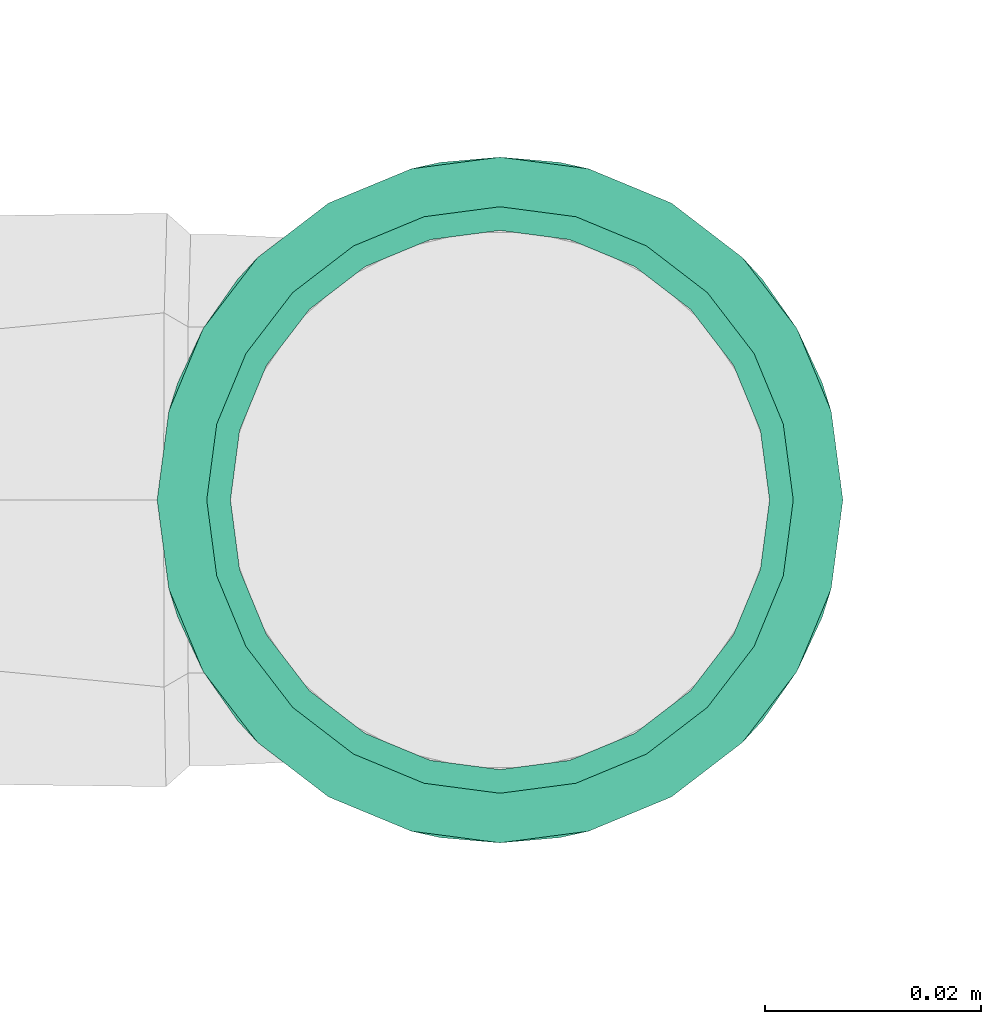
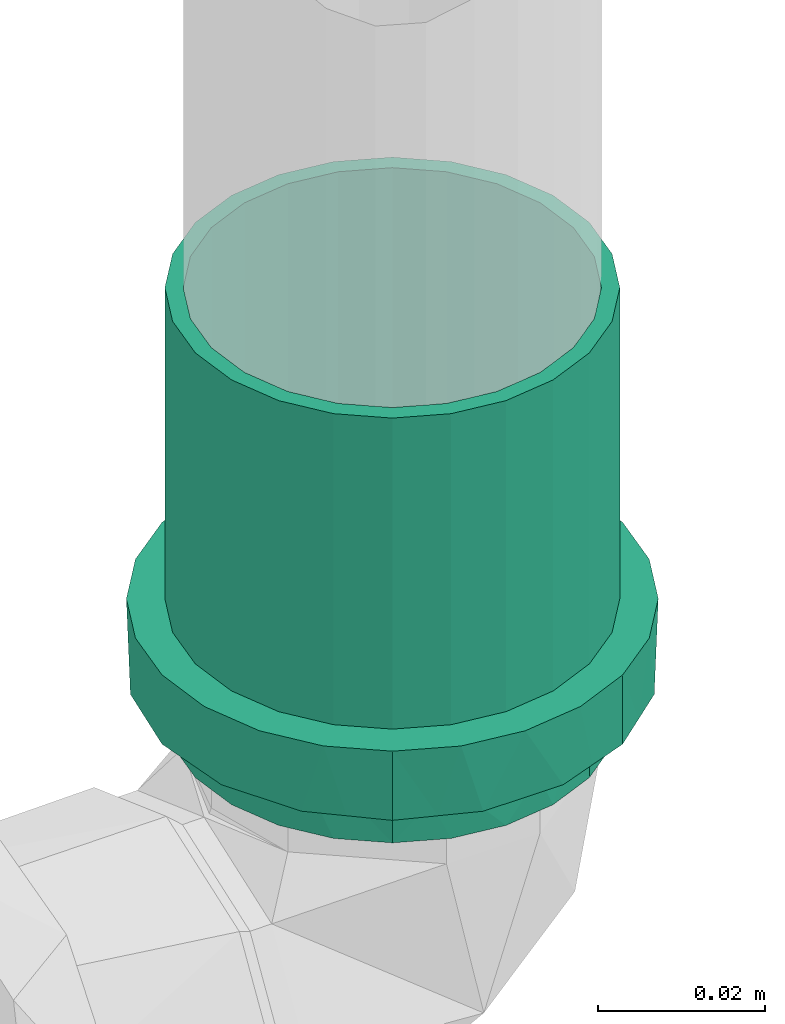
# One storey, part 172 of 589: 1 flow fitting.
"""IFC2X3 building model written with IfcOpenShell, lengths in millimetres."""

import ifcopenshell
import ifcopenshell.guid

model = None  # the IFC model being written
_history = None  # IfcOwnerHistory: only IFC2X3 demands one
_inside = {}  # id of a spatial element -> (the spatial element, [elements in it])
_under = {}  # id of a project, library or spatial element -> (it, [spatial elements below it])
_declared = {}  # id of a project -> (the project, [libraries it declares])
_typed = {}  # id of a type object -> (the type object, [elements of that type])
_made_of = {}  # id of a material, layer set ... -> (it, [elements and type objects made of it])


def new_model(schema):
    """Start an empty IFC model of exactly this schema.

    Asked for "IFC4X3", IfcOpenShell would pick the latest addendum, in which some entities
    have other attributes; the version numbers below select the first issue.
    IFC2X3 requires an IfcOwnerHistory on every rooted entity: one is made here for all.
    """
    global model, _history
    if schema == "IFC4X3":
        model = ifcopenshell.file(schema_version=(4, 3, 0, 0))
    else:
        model = ifcopenshell.file(schema=schema)
    _inside.clear()
    _under.clear()
    _declared.clear()
    _typed.clear()
    _made_of.clear()
    _history = None
    if model.schema == "IFC2X3":
        org = make("IfcOrganization", Name="unknown")
        user = make(
            "IfcPersonAndOrganization",
            ThePerson=make("IfcPerson", FamilyName="unknown"),
            TheOrganization=org,
        )
        app = make(
            "IfcApplication",
            ApplicationDeveloper=org,
            Version="unknown",
            ApplicationFullName="unknown",
            ApplicationIdentifier="unknown",
        )
        _history = make(
            "IfcOwnerHistory",
            OwningUser=user,
            OwningApplication=app,
            ChangeAction="ADDED",
            CreationDate=0,
        )
    return model


def make(cls, **values):
    """One entity of the class cls with the attributes given. An attribute that is None is left unset."""
    return model.create_entity(
        cls, **{name: value for name, value in values.items() if value is not None}
    )


def entity(cls, *values):
    """Any entity or typed value of the class cls, its attributes in the order of the schema. None: left unset."""
    e = model.create_entity(cls)
    for i, value in enumerate(values):
        if value is not None:
            e[i] = value
    return e


def rooted(cls, **values):
    """An entity with a GlobalId (a new one), such as an element, a storey or a relation."""
    return make(cls, GlobalId=ifcopenshell.guid.new(), OwnerHistory=_history, **values)


def si_unit(unit_type, name, prefix=None):
    """IfcSIUnit, for example si_unit("LENGTHUNIT", "METRE", prefix="MILLI")."""
    return make("IfcSIUnit", UnitType=unit_type, Prefix=prefix, Name=name)


def converted_unit(unit_type, name, factor, base, dimensions=None, offset=None):
    """IfcConversionBasedUnit, such as the inch: factor (a typed value) times the base unit."""
    return make(
        "IfcConversionBasedUnit"
        if offset is None
        else "IfcConversionBasedUnitWithOffset",
        ConversionOffset=offset,
        Dimensions=None
        if dimensions is None
        else entity("IfcDimensionalExponents", *dimensions),
        UnitType=unit_type,
        Name=name,
        ConversionFactor=make(
            "IfcMeasureWithUnit", ValueComponent=factor, UnitComponent=base
        ),
    )


def derived_unit(unit_type, elements):
    """IfcDerivedUnit: a product of units, each with its exponent."""
    return make(
        "IfcDerivedUnit",
        Elements=[
            make("IfcDerivedUnitElement", Unit=unit, Exponent=power)
            for unit, power in elements
        ],
        UnitType=unit_type,
    )


def assignment(units):
    """IfcUnitAssignment: the units of a project."""
    return None if units is None else make("IfcUnitAssignment", Units=units)


def point(xyz):
    """IfcCartesianPoint."""
    return None if xyz is None else make("IfcCartesianPoint", Coordinates=xyz)


def direction(xyz):
    """IfcDirection."""
    return None if xyz is None else make("IfcDirection", DirectionRatios=xyz)


def frame(location, z_axis=None, x_axis=None):
    """IfcAxis2Placement3D, a coordinate frame: its origin and axes. An axis left out is left unset."""
    return make(
        "IfcAxis2Placement3D",
        Location=point(location),
        Axis=direction(z_axis),
        RefDirection=direction(x_axis),
    )


def origin():
    """The frame at (0, 0, 0) with its axes left unset."""
    return frame((0.0, 0.0, 0.0))


def place(relative_to, where):
    """IfcLocalPlacement: puts the frame where relative to a parent placement (None: the world)."""
    return make(
        "IfcLocalPlacement", PlacementRelTo=relative_to, RelativePlacement=where
    )


def context(
    kind, dimensions, precision=None, world=None, true_north=None, identifier=None
):
    """IfcGeometricRepresentationContext, for example the 3D "Model" context."""
    return make(
        "IfcGeometricRepresentationContext",
        ContextIdentifier=identifier,
        ContextType=kind,
        CoordinateSpaceDimension=dimensions,
        Precision=precision,
        WorldCoordinateSystem=world,
        TrueNorth=true_north,
    )


def subcontext(parent, identifier, kind, view, scale=None):
    """IfcGeometricRepresentationSubContext, for example "Body" below "Model"."""
    return make(
        "IfcGeometricRepresentationSubContext",
        ContextIdentifier=identifier,
        ContextType=kind,
        ParentContext=parent,
        TargetScale=scale,
        TargetView=view,
    )


def project(units=None, contexts=None):
    """IfcProject with its units and contexts."""
    return rooted(
        "IfcProject",
        Name="project",
        RepresentationContexts=contexts,
        UnitsInContext=assignment(units),
    )


def spatial(cls, under=None, at=None, **own):
    """A site, building, storey or space (cls), placed at a placement, below another one or the project."""
    s = rooted(cls, ObjectPlacement=at, **own)
    if under is not None:
        _under.setdefault(under.id(), (under, []))[1].append(s)
    return s


def faces_of(points, faces, orient=None, outer=None):
    """IfcFace entities. A face is a list of loops; a loop is a list of indices into points, from 0.

    orient and outer hold one flag for each loop. By default every Orientation is true, the
    first loop of a face is its IfcFaceOuterBound and the others are IfcFaceBound.
    """
    made = []
    for i, loops in enumerate(faces):
        bounds = []
        for j, loop in enumerate(loops):
            is_outer = j == 0 if outer is None else outer[i][j]
            bounds.append(
                make(
                    "IfcFaceOuterBound" if is_outer else "IfcFaceBound",
                    Bound=make("IfcPolyLoop", Polygon=[points[k] for k in loop]),
                    Orientation=True if orient is None else orient[i][j],
                )
            )
        made.append(make("IfcFace", Bounds=bounds))
    return made


def faceted_brep(points, faces, orient=None, outer=None, voids=None):
    """IfcFacetedBrep: a solid bounded by flat faces; with voids (closed shells), ...WithVoids."""
    shared = [point(p) for p in points]
    hull = make("IfcClosedShell", CfsFaces=faces_of(shared, faces, orient, outer))
    if voids is None:
        return make("IfcFacetedBrep", Outer=hull)
    return make(
        "IfcFacetedBrepWithVoids",
        Outer=hull,
        Voids=[
            make(cls, CfsFaces=faces_of(shared, fs, o, b)) for cls, fs, o, b in voids
        ],
    )


def shape(context_of_items, identifier, shape_type, items):
    """IfcShapeRepresentation: the items that make up one representation, for example the "Body"."""
    return make(
        "IfcShapeRepresentation",
        ContextOfItems=context_of_items,
        RepresentationIdentifier=identifier,
        RepresentationType=shape_type,
        Items=items,
    )


def source(mapping_origin, context_of_items, identifier, shape_type, items):
    """IfcRepresentationMap: a shape defined once, which mapped items show again and again."""
    return make(
        "IfcRepresentationMap",
        MappingOrigin=mapping_origin,
        MappedRepresentation=shape(context_of_items, identifier, shape_type, items),
    )


def transform(
    local_origin,
    x_axis=None,
    y_axis=None,
    z_axis=None,
    scale=None,
    scale2=None,
    scale3=None,
    uniform=True,
):
    """IfcCartesianTransformationOperator3D, or its non-uniform kind. x_axis, y_axis, z_axis: its Axis1, 2, 3."""
    if uniform:
        return make(
            "IfcCartesianTransformationOperator3D",
            Axis1=direction(x_axis),
            Axis2=direction(y_axis),
            LocalOrigin=point(local_origin),
            Scale=scale,
            Axis3=direction(z_axis),
        )
    return make(
        "IfcCartesianTransformationOperator3DnonUniform",
        Axis1=direction(x_axis),
        Axis2=direction(y_axis),
        LocalOrigin=point(local_origin),
        Scale=scale,
        Axis3=direction(z_axis),
        Scale2=scale2,
        Scale3=scale3,
    )


def mapped(mapping_source, mapping_target):
    """IfcMappedItem: shows the shape of a source again, moved by a transform."""
    return make(
        "IfcMappedItem", MappingSource=mapping_source, MappingTarget=mapping_target
    )


def material(Name=None, Category=None):
    """IfcMaterial."""
    return make("IfcMaterial", Name=Name, Category=Category)


def made_of(thing, what):
    """Note that an element or type object is made of a material, layer set ...; save() writes the relation."""
    if what is not None:
        _made_of.setdefault(what.id(), (what, []))[1].append(thing)
    return thing


def type_object(cls, material=None, **own):
    """A type object (cls), such as IfcWallType, which elements share."""
    return made_of(rooted(cls, **own), material)


def type_shapes(of_type, sources):
    """Give a type object the sources (RepresentationMaps) that its elements show as mapped items."""
    of_type.RepresentationMaps = sources


def element(
    cls,
    number,
    at=None,
    inside=None,
    cuts=None,
    type_object=None,
    material=None,
    context=None,
    identifier="Body",
    shape_type=None,
    held_by="IfcProductDefinitionShape",
    body=None,
    shapes=None,
    **own,
):
    """One element of the class cls, such as IfcWall. Its Tag is "e" and its number.

    at: its placement. inside: the storey or other place that contains it. cuts: it is an
    opening in that element (IfcRelVoidsElement). A single representation is given by context,
    identifier, shape_type and body (its items); several are given by shapes. held_by: the class
    of the entity that holds the representations. save() writes the other relations.
    """
    e = rooted(cls, Tag="e%d" % number, ObjectPlacement=at, **own)
    if body is not None:
        shapes = [shape(context, identifier, shape_type, body)]
    if shapes is not None:
        e.Representation = make(held_by, Representations=shapes)
    if inside is not None:
        _inside.setdefault(inside.id(), (inside, []))[1].append(e)
    if cuts is not None:
        rooted(
            "IfcRelVoidsElement", RelatingBuildingElement=cuts, RelatedOpeningElement=e
        )
    if type_object is not None:
        _typed.setdefault(type_object.id(), (type_object, []))[1].append(e)
    return made_of(e, material)


def aggregate(whole, parts):
    """IfcRelAggregates: a whole, such as a stair, and the parts it consists of."""
    return rooted("IfcRelAggregates", RelatingObject=whole, RelatedObjects=parts)


def save(model, path):
    """Write the relations noted so far, then the file.

    IfcRelAggregates (storeys below a building ...), IfcRelContainedInSpatialStructure (elements
    in a storey), IfcRelDefinesByType, IfcRelAssociatesMaterial and IfcRelDeclares: one each for
    every whole, place, type object, material and project.
    """
    for whole, parts in _under.values():
        aggregate(whole, parts)
    for where, things in _inside.values():
        rooted(
            "IfcRelContainedInSpatialStructure",
            RelatedElements=things,
            RelatingStructure=where,
        )
    for kind, things in _typed.values():
        rooted("IfcRelDefinesByType", RelatedObjects=things, RelatingType=kind)
    for what, things in _made_of.values():
        rooted("IfcRelAssociatesMaterial", RelatedObjects=things, RelatingMaterial=what)
    for by, libraries in _declared.values():
        rooted("IfcRelDeclares", RelatingContext=by, RelatedDefinitions=libraries)
    model.write(path)


model = new_model("IFC2X3")

# Units and contexts
model_context = context("Model", 3, precision=0.01, world=origin(), true_north=direction((6.123031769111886e-17, 1.0)))
body_context = subcontext(model_context, "Body", "Model", "MODEL_VIEW")
ifc_project = project(units=[si_unit("LENGTHUNIT", "METRE", prefix="MILLI"), si_unit("AREAUNIT", "SQUARE_METRE"), si_unit("VOLUMEUNIT", "CUBIC_METRE"), converted_unit("PLANEANGLEUNIT", "DEGREE", entity("IfcRatioMeasure", 0.017453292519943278), si_unit("PLANEANGLEUNIT", "RADIAN"), dimensions=[0, 0, 0, 0, 0, 0, 0]), si_unit("MASSUNIT", "GRAM", prefix="KILO"), derived_unit("MASSDENSITYUNIT", [(si_unit("MASSUNIT", "GRAM", prefix="KILO"), 1), (si_unit("LENGTHUNIT", "METRE"), -3)]), derived_unit("IONCONCENTRATIONUNIT", [(si_unit("MASSUNIT", "GRAM", prefix="KILO"), 1), (si_unit("LENGTHUNIT", "METRE"), -3)]), derived_unit("MOMENTOFINERTIAUNIT", [(si_unit("LENGTHUNIT", "METRE"), 4)]), si_unit("TIMEUNIT", "SECOND"), si_unit("FREQUENCYUNIT", "HERTZ"), si_unit("THERMODYNAMICTEMPERATUREUNIT", "DEGREE_CELSIUS"), derived_unit("THERMALTRANSMITTANCEUNIT", [(si_unit("MASSUNIT", "GRAM", prefix="KILO"), 1), (si_unit("THERMODYNAMICTEMPERATUREUNIT", "KELVIN"), -1), (si_unit("TIMEUNIT", "SECOND"), -3)]), derived_unit("THERMALCONDUCTANCEUNIT", [(si_unit("MASSUNIT", "GRAM", prefix="KILO"), 1), (si_unit("THERMODYNAMICTEMPERATUREUNIT", "KELVIN"), -1), (si_unit("TIMEUNIT", "SECOND"), -3), (si_unit("LENGTHUNIT", "METRE"), 1)]), derived_unit("VOLUMETRICFLOWRATEUNIT", [(si_unit("LENGTHUNIT", "METRE"), 3), (si_unit("TIMEUNIT", "SECOND"), -1)]), derived_unit("MASSFLOWRATEUNIT", [(si_unit("MASSUNIT", "GRAM", prefix="KILO"), 1), (si_unit("TIMEUNIT", "SECOND"), -1)]), derived_unit("ROTATIONALFREQUENCYUNIT", [(si_unit("TIMEUNIT", "SECOND"), -1)]), si_unit("ELECTRICCURRENTUNIT", "AMPERE"), si_unit("ELECTRICVOLTAGEUNIT", "VOLT"), si_unit("POWERUNIT", "WATT"), si_unit("FORCEUNIT", "NEWTON", prefix="KILO"), si_unit("ILLUMINANCEUNIT", "LUX"), si_unit("LUMINOUSFLUXUNIT", "LUMEN"), si_unit("LUMINOUSINTENSITYUNIT", "CANDELA"), derived_unit("USERDEFINED", [(si_unit("MASSUNIT", "GRAM", prefix="KILO"), -1), (si_unit("LENGTHUNIT", "METRE"), -2), (si_unit("TIMEUNIT", "SECOND"), 3), (si_unit("LUMINOUSFLUXUNIT", "LUMEN"), 1)]), derived_unit("USERDEFINED", [(si_unit("MASSUNIT", "GRAM", prefix="KILO"), 1), (si_unit("TIMEUNIT", "SECOND"), -3), (si_unit("LENGTHUNIT", "METRE"), 3), (si_unit("ELECTRICCURRENTUNIT", "AMPERE"), -2)]), derived_unit("SOUNDPOWERUNIT", [(si_unit("MASSUNIT", "GRAM", prefix="KILO"), 1), (si_unit("TIMEUNIT", "SECOND"), -3), (si_unit("LENGTHUNIT", "METRE"), 2)]), derived_unit("SOUNDPRESSUREUNIT", [(si_unit("MASSUNIT", "GRAM", prefix="KILO"), 1), (si_unit("LENGTHUNIT", "METRE"), -1), (si_unit("TIMEUNIT", "SECOND"), -2)]), derived_unit("LINEARVELOCITYUNIT", [(si_unit("LENGTHUNIT", "METRE"), 1), (si_unit("TIMEUNIT", "SECOND"), -1)]), si_unit("PRESSUREUNIT", "PASCAL"), derived_unit("USERDEFINED", [(si_unit("MASSUNIT", "GRAM", prefix="KILO"), 1), (si_unit("LENGTHUNIT", "METRE"), -2), (si_unit("TIMEUNIT", "SECOND"), -2)]), derived_unit("LINEARFORCEUNIT", [(si_unit("MASSUNIT", "GRAM", prefix="KILO"), 1), (si_unit("TIMEUNIT", "SECOND"), -2)]), derived_unit("PLANARFORCEUNIT", [(si_unit("MASSUNIT", "GRAM", prefix="KILO"), 1), (si_unit("LENGTHUNIT", "METRE"), -1), (si_unit("TIMEUNIT", "SECOND"), -2)]), derived_unit("SPECIFICHEATCAPACITYUNIT", [(si_unit("THERMODYNAMICTEMPERATUREUNIT", "KELVIN"), -1), (si_unit("LENGTHUNIT", "METRE"), 2), (si_unit("TIMEUNIT", "SECOND"), -2)]), derived_unit("HEATINGVALUEUNIT", [(si_unit("LENGTHUNIT", "METRE"), 2), (si_unit("TIMEUNIT", "SECOND"), -2)]), derived_unit("VAPORPERMEABILITYUNIT", [(si_unit("LENGTHUNIT", "METRE"), -1), (si_unit("TIMEUNIT", "SECOND"), 1)]), derived_unit("DYNAMICVISCOSITYUNIT", [(si_unit("MASSUNIT", "GRAM", prefix="KILO"), 1), (si_unit("TIMEUNIT", "SECOND"), -1), (si_unit("LENGTHUNIT", "METRE"), -1)]), derived_unit("THERMALEXPANSIONCOEFFICIENTUNIT", [(si_unit("THERMODYNAMICTEMPERATUREUNIT", "KELVIN"), -1)]), derived_unit("MODULUSOFELASTICITYUNIT", [(si_unit("MASSUNIT", "GRAM", prefix="KILO"), 1), (si_unit("LENGTHUNIT", "METRE"), -1), (si_unit("TIMEUNIT", "SECOND"), -2)]), derived_unit("ISOTHERMALMOISTURECAPACITYUNIT", [(si_unit("LENGTHUNIT", "METRE"), 3), (si_unit("MASSUNIT", "GRAM", prefix="KILO"), -1)]), derived_unit("MOISTUREDIFFUSIVITYUNIT", [(si_unit("TIMEUNIT", "SECOND"), -1), (si_unit("LENGTHUNIT", "METRE"), 2)])], contexts=[model_context])

# Site, building, storey
site_placement = place(None, origin())
site = spatial("IfcSite", under=ifc_project, at=site_placement, Name="Default", CompositionType="ELEMENT")
building_placement = place(site_placement, origin())
building = spatial("IfcBuilding", under=site, at=building_placement, CompositionType="ELEMENT")
storey_placement = place(building_placement, frame((0.0, 0.0, 100.0)))
storey = spatial("IfcBuildingStorey", under=building, at=storey_placement, Name="TÉRREO", CompositionType="ELEMENT", Elevation=100.0)

# Flow fitting
ifc_material = material(Name="PVC Série Normal")
pipe_fitting_type = type_object("IfcPipeFittingType", Name="PVC Esgoto_Luva Simples para Conexão_Rodrigo MEP:Standard", PredefinedType="NOTDEFINED", material=ifc_material)
shared_shape = source(origin(), body_context, "Body", "Brep", [
    faceted_brep([(16.599999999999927, 15.900000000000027, -27.53960784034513), (16.599999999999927, 22.485995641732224, -22.485995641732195), (16.599999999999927, 13.599999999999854, -23.555890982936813), (16.599999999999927, 7.039878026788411, -26.273182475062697), (16.599999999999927, 8.2304456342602, -30.71644127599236), (16.599999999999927, 19.233304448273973, -19.233304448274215), (16.599999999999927, 27.539607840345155, -15.899999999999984), (16.599999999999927, 23.55589098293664, -13.600000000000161), (16.599999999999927, 26.273182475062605, -7.03987802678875), (16.599999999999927, 30.716441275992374, -8.230445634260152), (16.599999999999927, 27.2, 0.0), (16.599999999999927, 31.8, 0.0), (16.599999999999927, 26.273182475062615, 7.0398780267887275), (16.599999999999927, 30.71644127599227, 8.23044563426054), (16.599999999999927, 23.555890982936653, 13.60000000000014), (16.599999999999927, 27.539607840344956, 15.900000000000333), (16.599999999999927, 19.233304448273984, 19.2333044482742), (16.599999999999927, 22.485995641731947, 22.48599564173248), (16.599999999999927, 13.599999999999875, 23.555890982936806), (16.599999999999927, 15.899999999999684, 27.53960784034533), (16.599999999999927, 7.039878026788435, 26.27318247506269), (16.599999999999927, 8.230445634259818, 30.716441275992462), (16.599999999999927, 0.0, 27.2), (16.599999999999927, 0.0, 31.8), (16.599999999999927, -7.039878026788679, 26.273182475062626), (16.599999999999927, -8.230445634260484, 30.716441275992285), (16.599999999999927, -13.600000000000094, 23.555890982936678), (16.599999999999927, -15.900000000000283, 27.53960784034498), (16.599999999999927, -19.23330444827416, 19.233304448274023), (16.599999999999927, -22.485995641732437, 22.48599564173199), (16.599999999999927, -23.55589098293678, 13.59999999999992), (16.599999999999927, -27.539607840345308, 15.899999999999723), (16.599999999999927, -30.71644127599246, 8.230445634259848), (16.599999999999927, -26.273182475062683, 7.039878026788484), (16.599999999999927, -31.8, 0.0), (16.599999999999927, -27.2, 0.0), (16.599999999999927, -30.71644127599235, -8.23044563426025), (16.599999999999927, -26.273182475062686, -7.03987802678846), (16.599999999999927, -27.53960784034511, -15.90000000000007), (16.599999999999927, -23.55589098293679, -13.599999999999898), (16.599999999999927, -22.485995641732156, -22.485995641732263), (16.599999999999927, -19.233304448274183, -19.233304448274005), (16.599999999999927, -15.899999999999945, -27.53960784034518), (16.599999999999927, -13.600000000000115, -23.555890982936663), (16.599999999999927, -8.230445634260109, -30.716441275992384), (16.599999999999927, -7.039878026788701, -26.273182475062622), (16.599999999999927, 0.0, -31.8), (16.599999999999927, 0.0, -27.2), (6.500000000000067, -10.708108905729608, 29.429219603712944), (6.500000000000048, -24.359073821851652, 20.44200387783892), (6.500000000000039, -27.120498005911, 15.6595386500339), (6.50000000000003, -29.881922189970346, 10.877073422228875), (6.500000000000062, -15.89769721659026, 27.540937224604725), (6.500000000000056, -20.128385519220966, 23.991470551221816), (6.50000000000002, -30.840961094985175, 5.438536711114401), (6.5000000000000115, -31.8, 0.0), (6.50000000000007, -5.518520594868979, 31.317501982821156), (6.500000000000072, 5.526376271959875, 31.316116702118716), (6.50000000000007, 0.00392783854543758, 31.316809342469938), (6.500000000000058, 20.134403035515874, 23.986420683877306), (6.500000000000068, 10.715490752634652, 29.42653259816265), (6.500000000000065, 15.904605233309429, 27.536948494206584), (6.500000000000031, 29.8846497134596, 10.869577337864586), (6.500000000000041, 27.12442527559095, 15.652735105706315), (6.5000000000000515, 24.364200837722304, 20.435892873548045), (6.5000000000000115, 31.8, 0.0), (6.499999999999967, 24.364200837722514, -20.435892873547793), (6.499999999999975, 27.12442527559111, -15.652735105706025), (6.499999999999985, 29.884649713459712, -10.869577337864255), (6.4999999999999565, 15.904605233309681, -27.53694849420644), (6.499999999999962, 20.134403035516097, -23.986420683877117), (6.499999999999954, 10.715490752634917, -29.42653259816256), (6.499999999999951, 5.526376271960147, -31.31611670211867), (6.499999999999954, -5.518520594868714, -31.317501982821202), (6.499999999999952, 0.003927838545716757, -31.316809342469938), (6.499999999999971, -20.128385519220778, -23.99147055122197), (6.499999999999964, -15.897697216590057, -27.54093722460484), (6.499999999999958, -10.70810890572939, -29.42921960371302), (6.499999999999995, -29.881922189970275, -10.877073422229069), (6.499999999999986, -27.12049800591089, -15.659538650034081), (6.499999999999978, -24.359073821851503, -20.442003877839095), (6.500000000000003, -30.840961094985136, -5.438536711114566), (6.499999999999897, -30.696173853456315, -6.259599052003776), (62.0, 13.600000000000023, -23.55589098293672), (62.0, 19.233304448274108, -19.23330444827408), (62.0, 12.499999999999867, -21.650635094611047), (62.0, 6.470476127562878, -24.14814565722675), (62.0, 7.039878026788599, -26.273182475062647), (62.0, 17.677669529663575, -17.677669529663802), (62.0, 23.55589098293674, -13.599999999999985), (62.0, 21.65063509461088, -12.50000000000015), (62.0, 24.148145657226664, -6.470476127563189), (62.0, 26.27318247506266, -7.039878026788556), (62.0, 25.0, 0.0), (62.0, 27.2, 0.0), (62.0, 24.148145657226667, 6.4704761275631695), (62.0, 26.273182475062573, 7.03987802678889), (62.0, 21.650635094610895, 12.500000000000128), (62.0, 23.555890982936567, 13.600000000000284), (62.0, 17.67766952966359, 17.67766952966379), (62.0, 19.233304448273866, 19.233304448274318), (62.0, 12.499999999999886, 21.650635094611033), (62.0, 13.59999999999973, 23.55589098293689), (62.0, 6.4704761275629, 24.14814565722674), (62.0, 7.039878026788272, 26.273182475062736), (62.0, 0.0, 25.0), (62.0, 0.0, 27.2), (62.0, -6.470476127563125, 24.148145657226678), (62.0, -7.039878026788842, 26.273182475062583), (62.0, -12.500000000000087, 21.650635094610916), (62.0, -13.600000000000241, 23.555890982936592), (62.0, -17.677669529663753, 17.677669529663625), (62.0, -19.233304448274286, 19.2333044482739), (62.0, -21.65063509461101, 12.499999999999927), (62.0, -23.555890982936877, 13.599999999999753), (62.0, -26.27318247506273, 7.039878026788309), (62.0, -24.14814565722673, 6.470476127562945), (62.0, -27.2, 0.0), (62.0, -25.0, 0.0), (62.0, -26.27318247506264, -7.0398780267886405), (62.0, -24.148145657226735, -6.470476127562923), (62.0, -23.5558909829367, -13.600000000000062), (62.0, -21.650635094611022, -12.499999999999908), (62.0, -19.233304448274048, -19.233304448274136), (62.0, -17.67766952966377, -17.677669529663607), (62.0, -13.599999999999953, -23.555890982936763), (62.0, -12.500000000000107, -21.650635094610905), (62.0, -7.039878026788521, -26.27318247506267), (62.0, -6.470476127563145, -24.148145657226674), (62.0, 0.0, -27.2), (62.0, 0.0, -25.0), (0.0, 12.499999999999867, -21.650635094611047), (0.0, 19.233304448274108, -19.23330444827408), (0.0, 13.600000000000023, -23.55589098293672), (0.0, 6.470476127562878, -24.14814565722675), (0.0, 17.677669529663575, -17.677669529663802), (0.0, 23.55589098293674, -13.599999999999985), (0.0, 21.65063509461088, -12.50000000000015), (0.0, 24.148145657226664, -6.470476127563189), (0.0, 26.27318247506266, -7.039878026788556), (0.0, 25.0, 0.0), (0.0, 27.2, 0.0), (0.0, 24.148145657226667, 6.4704761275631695), (0.0, 26.273182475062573, 7.03987802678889), (0.0, 21.650635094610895, 12.500000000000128), (0.0, 23.555890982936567, 13.600000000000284), (0.0, 17.67766952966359, 17.67766952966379), (0.0, 19.233304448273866, 19.233304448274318), (0.0, 12.499999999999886, 21.650635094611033), (0.0, 13.59999999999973, 23.55589098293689), (0.0, 6.4704761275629, 24.14814565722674), (0.0, 7.039878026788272, 26.273182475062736), (0.0, 0.0, 25.0), (0.0, 0.0, 27.2), (0.0, -6.470476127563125, 24.148145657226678), (0.0, -7.039878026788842, 26.273182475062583), (0.0, -12.500000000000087, 21.650635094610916), (0.0, -13.600000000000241, 23.555890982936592), (0.0, -17.677669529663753, 17.677669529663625), (0.0, -19.233304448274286, 19.2333044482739), (0.0, -21.65063509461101, 12.499999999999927), (0.0, -23.555890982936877, 13.599999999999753), (0.0, -26.27318247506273, 7.039878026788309), (0.0, -24.14814565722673, 6.470476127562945), (0.0, -27.2, 0.0), (0.0, -25.0, 0.0), (0.0, -26.27318247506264, -7.0398780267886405), (0.0, -24.148145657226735, -6.470476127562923), (0.0, -23.5558909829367, -13.600000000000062), (0.0, -21.650635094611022, -12.499999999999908), (0.0, -19.233304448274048, -19.233304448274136), (0.0, -17.67766952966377, -17.677669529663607), (0.0, -13.599999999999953, -23.555890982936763), (0.0, -12.500000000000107, -21.650635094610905), (0.0, -7.039878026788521, -26.27318247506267), (0.0, -6.470476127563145, -24.148145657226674), (0.0, 0.0, -27.2), (0.0, 0.0, -25.0), (0.0, 7.039878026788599, -26.273182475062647), (5.300000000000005, -26.37968999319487, 4.651830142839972), (5.299999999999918, -26.25584678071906, 5.354122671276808), (5.300000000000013, -25.559379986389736, 9.303660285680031), (5.300000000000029, -20.835434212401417, 17.48498444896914), (5.300000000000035, -17.216732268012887, 20.521006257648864), (5.300000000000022, -23.19740709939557, 13.394322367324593), (5.3000000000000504, -4.720244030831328, 26.787297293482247), (5.300000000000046, -9.15913717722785, 25.172162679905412), (5.299999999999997, -27.2, 0.0), (5.300000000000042, -13.598030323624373, 23.557028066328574), (5.300000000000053, 9.165451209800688, 25.169864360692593), (5.300000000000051, 13.603939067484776, 23.55361632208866), (5.300000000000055, 4.7269633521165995, 26.786112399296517), (5.300000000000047, 17.221879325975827, 20.516686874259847), (5.300000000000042, 20.839819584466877, 17.479757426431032), (5.3000000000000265, 25.56171296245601, 9.297248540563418), (5.299999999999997, 27.2, 0.0), (5.3000000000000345, 23.20076627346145, 13.388502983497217), (5.300000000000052, 0.003359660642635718, 26.786704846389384), (5.299999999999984, 25.56171296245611, -9.29724854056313), (5.299999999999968, 20.839819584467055, -17.47975742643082), (5.2999999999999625, 17.22187932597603, -20.516686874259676), (5.299999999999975, 23.200766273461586, -13.388502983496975), (5.299999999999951, 4.726963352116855, -26.78611239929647), (5.2999999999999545, 9.165451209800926, -25.169864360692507), (5.299999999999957, 13.603939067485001, -23.553616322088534), (5.29999999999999, -26.379689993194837, -4.651830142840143), (5.299999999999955, -9.159137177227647, -25.17216267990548), (5.299999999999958, -13.5980303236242, -23.55702806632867), (5.299999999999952, -4.720244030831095, -26.787297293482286), (5.299999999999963, -17.216732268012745, -20.52100625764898), (5.299999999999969, -20.83543421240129, -17.484984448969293), (5.299999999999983, -25.559379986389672, -9.303660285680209), (5.299999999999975, -23.197407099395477, -13.394322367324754), (5.299999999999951, 0.003359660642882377, -26.78670484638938), (39.0, -25.0, 0.0), (39.0, 25.0, 0.0)], [[[0, 1, 2]], [[0, 2, 3]], [[3, 4, 0]], [[2, 1, 5]], [[6, 5, 1]], [[7, 5, 6]], [[8, 7, 6]], [[8, 6, 9]], [[8, 9, 10]], [[10, 9, 11]], [[12, 10, 11]], [[12, 11, 13]], [[14, 12, 13]], [[14, 13, 15]], [[16, 14, 15]], [[15, 17, 16]], [[17, 18, 16]], [[17, 19, 18]], [[18, 19, 20]], [[21, 20, 19]], [[20, 21, 22]], [[22, 21, 23]], [[22, 23, 24]], [[24, 23, 25]], [[24, 25, 26]], [[27, 26, 25]], [[27, 28, 26]], [[28, 27, 29]], [[30, 28, 29]], [[31, 30, 29]], [[32, 30, 31]], [[33, 30, 32]], [[33, 32, 34]], [[35, 33, 34]], [[36, 35, 34]], [[36, 37, 35]], [[37, 36, 38]], [[39, 37, 38]], [[39, 38, 40]], [[39, 40, 41]], [[40, 42, 41]], [[41, 42, 43]], [[43, 42, 44]], [[44, 45, 43]], [[46, 45, 44]], [[4, 47, 46]], [[46, 47, 45]], [[4, 3, 47]], [[48, 27, 25]], [[31, 29, 49]], [[31, 49, 50, 51]], [[52, 53, 27]], [[32, 51, 54]], [[54, 55, 34]], [[54, 34, 32]], [[25, 56, 48]], [[49, 29, 53]], [[23, 57, 58, 56]], [[59, 19, 17]], [[27, 53, 29]], [[48, 52, 27]], [[31, 51, 32]], [[57, 23, 21]], [[60, 19, 61]], [[15, 62, 63, 64]], [[19, 60, 21]], [[15, 13, 62]], [[17, 64, 59]], [[57, 21, 60]], [[23, 56, 25]], [[15, 64, 17]], [[13, 65, 62]], [[13, 11, 65]], [[59, 61, 19]], [[65, 11, 9]], [[6, 1, 66]], [[6, 66, 67, 68]], [[69, 70, 0]], [[68, 65, 9]], [[71, 69, 0]], [[71, 0, 4]], [[4, 72, 71]], [[66, 1, 70]], [[46, 73, 74, 72]], [[75, 76, 42]], [[0, 70, 1]], [[75, 42, 40]], [[6, 68, 9]], [[73, 46, 44]], [[77, 42, 76]], [[38, 78, 79, 80]], [[42, 77, 44]], [[38, 36, 78]], [[40, 80, 75]], [[73, 44, 77]], [[46, 72, 4]], [[38, 80, 40]], [[36, 81, 82, 78]], [[55, 81, 34]], [[34, 81, 36]], [[83, 84, 85]], [[83, 85, 86]], [[86, 87, 83]], [[85, 84, 88]], [[89, 88, 84]], [[88, 89, 90]], [[90, 89, 91]], [[92, 91, 89]], [[92, 93, 91]], [[93, 92, 94]], [[95, 93, 94]], [[94, 96, 95]], [[95, 96, 97]], [[98, 97, 96]], [[97, 98, 99]], [[99, 98, 100]], [[101, 99, 100]], [[100, 102, 101]], [[101, 102, 103]], [[104, 103, 102]], [[103, 104, 105]], [[105, 104, 106]], [[105, 106, 107]], [[107, 106, 108]], [[107, 108, 109]], [[110, 109, 108]], [[110, 111, 109]], [[111, 110, 112]], [[112, 113, 111]], [[114, 113, 112]], [[113, 114, 115]], [[115, 116, 113]], [[117, 116, 115]], [[117, 118, 116]], [[119, 118, 117]], [[119, 120, 118]], [[120, 119, 121]], [[121, 122, 120]], [[122, 121, 123]], [[122, 123, 124]], [[123, 125, 124]], [[124, 125, 126]], [[126, 125, 127]], [[127, 128, 126]], [[129, 128, 127]], [[87, 130, 129]], [[129, 130, 128]], [[87, 86, 130]], [[131, 132, 133]], [[134, 131, 133]], [[135, 132, 131]], [[132, 135, 136]], [[137, 136, 135]], [[138, 136, 137]], [[136, 138, 139]], [[138, 140, 139]], [[141, 139, 140]], [[141, 140, 142]], [[142, 143, 141]], [[144, 143, 142]], [[143, 144, 145]], [[146, 145, 144]], [[147, 145, 146]], [[147, 146, 148]], [[148, 149, 147]], [[150, 149, 148]], [[149, 150, 151]], [[152, 151, 150]], [[153, 151, 152]], [[154, 153, 152]], [[155, 153, 154]], [[156, 155, 154]], [[155, 156, 157]], [[156, 158, 157]], [[159, 157, 158]], [[158, 160, 159]], [[159, 160, 161]], [[162, 161, 160]], [[160, 163, 162]], [[162, 163, 164]], [[163, 165, 164]], [[164, 165, 166]], [[165, 167, 166]], [[168, 166, 167]], [[167, 169, 168]], [[170, 168, 169]], [[171, 170, 169]], [[171, 172, 170]], [[173, 172, 171]], [[174, 172, 173]], [[173, 175, 174]], [[174, 175, 176]], [[175, 177, 176]], [[177, 134, 178]], [[176, 177, 178]], [[133, 178, 134]], [[162, 179, 180, 181]], [[159, 182, 183]], [[182, 161, 181, 184]], [[185, 155, 186]], [[161, 162, 181]], [[187, 179, 164]], [[183, 188, 157]], [[183, 157, 159]], [[161, 182, 159]], [[189, 190, 149]], [[189, 149, 151]], [[157, 188, 186]], [[157, 186, 155]], [[153, 155, 185]], [[164, 179, 162]], [[151, 191, 189]], [[147, 192, 193]], [[143, 194, 195]], [[194, 145, 193, 196]], [[143, 195, 141]], [[10, 12, 96, 94]], [[149, 192, 147]], [[153, 185, 197, 191]], [[153, 191, 151]], [[145, 147, 193]], [[190, 192, 149]], [[145, 194, 143]], [[139, 195, 198]], [[132, 199, 200]], [[199, 136, 198, 201]], [[202, 178, 203]], [[136, 139, 198]], [[139, 141, 195]], [[92, 8, 10, 94]], [[133, 203, 178]], [[200, 204, 133]], [[136, 199, 132]], [[205, 164, 166]], [[206, 207, 172]], [[133, 204, 203]], [[206, 172, 174]], [[176, 178, 202]], [[200, 133, 132]], [[174, 208, 206]], [[170, 209, 210]], [[166, 211, 205]], [[211, 168, 210, 212]], [[168, 211, 166]], [[172, 209, 170]], [[176, 202, 213, 208]], [[176, 208, 174]], [[168, 170, 210]], [[207, 209, 172]], [[205, 187, 164]], [[116, 118, 214, 165, 163]], [[156, 109, 111, 158]], [[111, 113, 160, 158]], [[113, 116, 163, 160]], [[107, 109, 156, 154]], [[154, 152, 105, 107]], [[103, 105, 152, 150]], [[103, 150, 148, 101]], [[142, 95, 97, 144]], [[97, 99, 146, 144]], [[99, 101, 148, 146]], [[93, 95, 142, 140, 215]], [[215, 140, 138, 91, 93]], [[135, 131, 85, 88]], [[90, 91, 138, 137]], [[90, 137, 135, 88]], [[86, 85, 131, 134]], [[134, 177, 130, 86]], [[128, 130, 177, 175]], [[128, 175, 173, 126]], [[167, 120, 122, 169]], [[122, 124, 171, 169]], [[124, 126, 173, 171]], [[118, 120, 167, 165, 214]], [[211, 78, 82, 81, 55, 187, 205]], [[79, 78, 211, 212, 210, 80]], [[75, 80, 210, 209, 207, 76]], [[207, 206, 208, 73, 77, 76]], [[213, 202, 72, 74, 73, 208]], [[203, 204, 69, 71, 72, 202]], [[198, 195, 65, 68]], [[199, 201, 198, 68, 67, 66]], [[204, 200, 199, 66, 70, 69]], [[195, 194, 62, 65]], [[197, 185, 56, 58, 57, 191]], [[63, 62, 194, 196, 193, 64]], [[57, 60, 61, 190, 189, 191]], [[193, 192, 190, 61, 59, 64]], [[48, 56, 185, 186, 188, 52]], [[187, 55, 54, 51, 181, 180, 179]], [[182, 184, 181, 51, 50, 49]], [[188, 183, 182, 49, 53, 52]], [[30, 33, 115, 114]], [[117, 115, 33, 35]], [[26, 28, 112, 110]], [[114, 112, 28, 30]], [[24, 26, 110, 108]], [[108, 106, 22, 24]], [[18, 20, 104, 102]], [[100, 16, 18, 102]], [[12, 14, 98, 96]], [[100, 98, 14, 16]], [[104, 20, 22, 106]], [[89, 7, 8, 92]], [[83, 87, 3, 2]], [[7, 89, 84, 5]], [[83, 2, 5, 84]], [[87, 129, 47, 3]], [[43, 45, 127, 125]], [[123, 41, 43, 125]], [[37, 39, 121, 119]], [[123, 121, 39, 41]], [[35, 37, 119, 117]], [[127, 45, 47, 129]]]),
])
type_shapes(pipe_fitting_type, [shared_shape])
flow_fitting_placement = place(storey_placement, frame((12184.978158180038, -6666.695187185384, 3076.741299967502), z_axis=(0.0, -1.0, 0.0), x_axis=(0.0, 0.0, 1.0)))
element("IfcFlowFitting", 1, at=flow_fitting_placement, inside=storey, type_object=pipe_fitting_type, material=ifc_material, Name="PVC Esgoto_Luva Simples para Conexão_Rodrigo MEP:Standard", ObjectType="PVC Esgoto_Luva Simples para Conexão_Rodrigo MEP:Standard", context=body_context, shape_type="MappedRepresentation", body=[
    mapped(shared_shape, transform((0.0, 0.0, 0.0), scale=1.0)),
])

save(model, "model.ifc")
